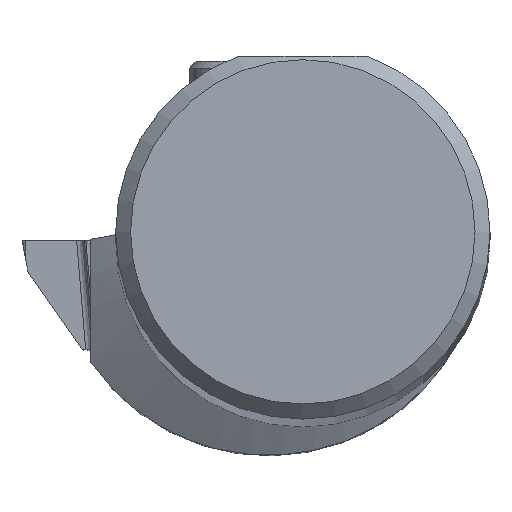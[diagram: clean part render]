
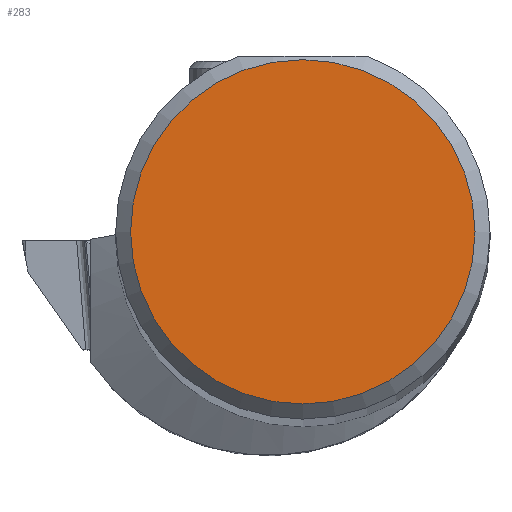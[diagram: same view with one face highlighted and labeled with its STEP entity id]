
A CAD part, top view. The second image highlights one B-rep face of the part: STEP entity #283.
In plain terms, the highlighted planar face has unit normal (0, 0, 1).
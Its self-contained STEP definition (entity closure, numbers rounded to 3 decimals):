
#180=FACE_OUTER_BOUND('',#480,.T.);
#283=ADVANCED_FACE('',(#180),#346,.T.);
#346=PLANE('',#1753);
#377=CIRCLE('',#1752,8.754);
#480=EDGE_LOOP('',(#868));
#868=ORIENTED_EDGE('',*,*,#1276,.T.);
#1068=VERTEX_POINT('',#2723);
#1276=EDGE_CURVE('',#1068,#1068,#377,.T.);
#1752=AXIS2_PLACEMENT_3D('',#2722,#2142,#2143);
#1753=AXIS2_PLACEMENT_3D('',#2724,#2144,#2145);
#2142=DIRECTION('',(0.,0.,1.));
#2143=DIRECTION('',(0.,-1.,0.));
#2144=DIRECTION('',(0.,0.,1.));
#2145=DIRECTION('',(0.,1.,0.));
#2722=CARTESIAN_POINT('',(0.,0.,0.));
#2723=CARTESIAN_POINT('',(0.,-8.754,0.));
#2724=CARTESIAN_POINT('',(0.,0.,0.));
